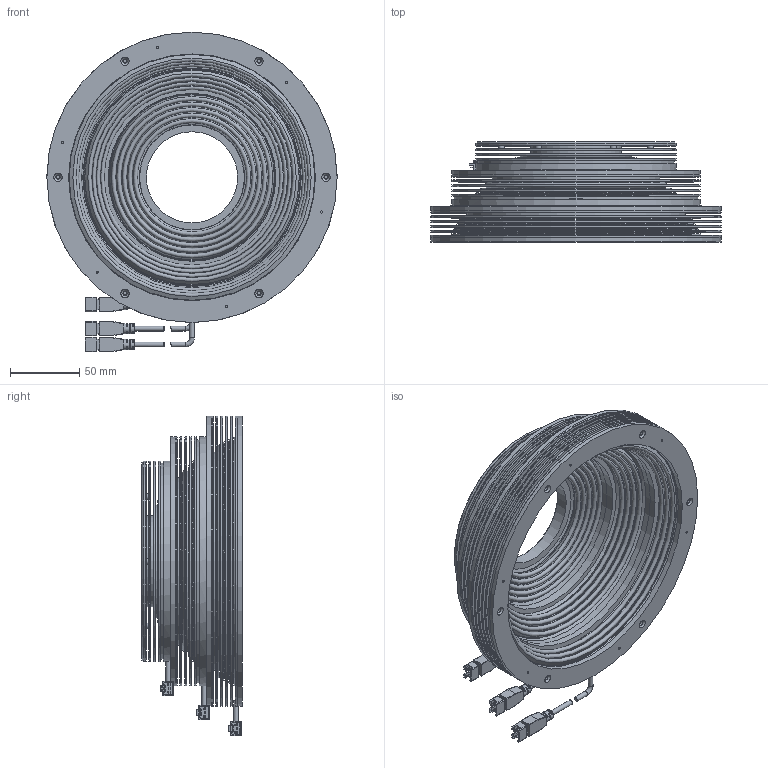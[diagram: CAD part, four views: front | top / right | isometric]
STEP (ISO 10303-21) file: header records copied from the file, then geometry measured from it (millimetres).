
FILE_DESCRIPTION (( 'STEP AP214' ), '1' );
FILE_NAME ('CST-SAI21066-M2-蚾饜极.STEP', '2021-12-20T09:37:43', ( '' ), ( '' ), 'SwSTEP 2.0', 'SolidWorks 2018', '' );
FILE_SCHEMA (( 'AUTOMOTIVE_DESIGN' ));
Length unit declared in the file: millimetre
Products named in the file (2): CST-SAI21066-M2-蚾饜极
Bounding box: 210 x 72.5 x 231.24 mm (x, y, z)
Surface area: 352087.9 mm2 (no closed solid volume)
Topology: 0 solids, 32 shells, 705 faces, 2112 edges, 1403 vertices
Faces by surface type: plane 338, cylinder 197, cone 132, bspline 19, torus 19
Full cylindrical faces by diameter (mm): 1.6 x6, 3.2 x18, 3.5 x9, 4.2 x6, 66 x1, 121.402 x2, 142 x1, 145 x5, 158.002 x2, 176.002 x1, 178.511 x1, 179.962 x1, 180.002 x6, 210.002 x7
Entity records: 31922 total; most frequent: CARTESIAN_POINT 6159, DIRECTION 3811, ORIENTED_EDGE 3088, EDGE_CURVE 1859, AXIS2_PLACEMENT_3D 1404, VERTEX_POINT 1368, EDGE_LOOP 1091, LINE 1003
